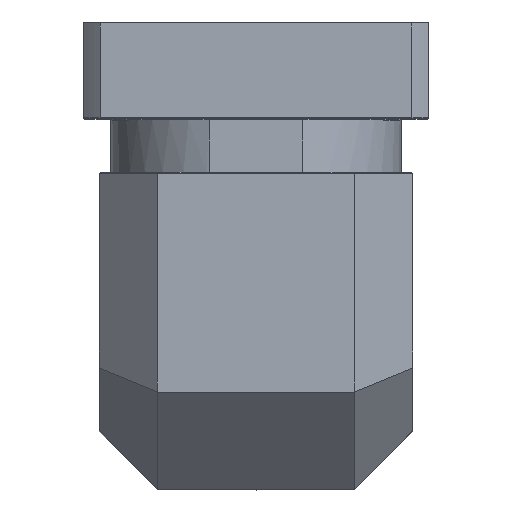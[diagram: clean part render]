
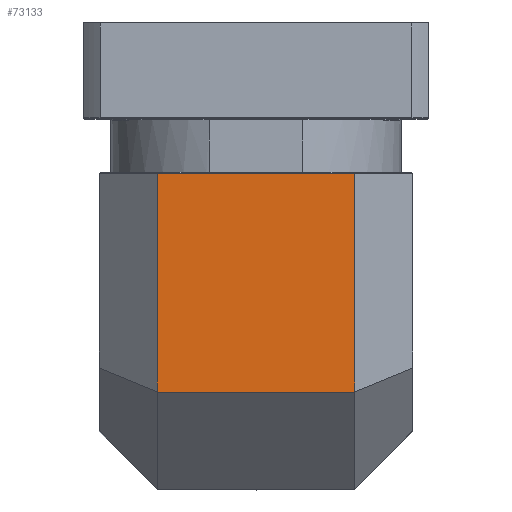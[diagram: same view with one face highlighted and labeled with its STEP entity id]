
A CAD part, top view. The second image highlights one B-rep face of the part: STEP entity #73133.
In plain terms, the highlighted planar face has unit normal (0, 0, 1).
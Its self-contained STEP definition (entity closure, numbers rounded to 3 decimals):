
#3446 = VECTOR ( 'NONE', #118623, 1000. ) ;
#3939 = LINE ( 'NONE', #103076, #29959 ) ;
#7686 = CARTESIAN_POINT ( 'NONE',  ( -59.705, 139.721, 85.895 ) ) ;
#16656 = CARTESIAN_POINT ( 'NONE',  ( -161.705, 58.471, 85.895 ) ) ;
#17609 = VERTEX_POINT ( 'NONE', #113529 ) ;
#18838 = EDGE_LOOP ( 'NONE', ( #55799, #98994, #113843, #51444 ) ) ;
#29959 = VECTOR ( 'NONE', #113956, 1000. ) ;
#33582 = EDGE_CURVE ( 'NONE', #113001, #89200, #3939, .T. ) ;
#34002 = EDGE_CURVE ( 'NONE', #89200, #113551, #83646, .T. ) ;
#49119 = FACE_OUTER_BOUND ( 'NONE', #18838, .T. ) ;
#50163 = DIRECTION ( 'NONE',  ( -1., 0., 0. ) ) ;
#51444 = ORIENTED_EDGE ( 'NONE', *, *, #34002, .F. ) ;
#55799 = ORIENTED_EDGE ( 'NONE', *, *, #33582, .F. ) ;
#61842 = AXIS2_PLACEMENT_3D ( 'NONE', #88510, #74513, #135423 ) ;
#69633 = EDGE_CURVE ( 'NONE', #113551, #17609, #147637, .T. ) ;
#73133 = ADVANCED_FACE ( 'NONE', ( #49119 ), #146473, .F. ) ;
#74513 = DIRECTION ( 'NONE',  ( 0., 0., -1. ) ) ;
#83646 = LINE ( 'NONE', #153673, #3446 ) ;
#88510 = CARTESIAN_POINT ( 'NONE',  ( -191.705, 140.221, 85.895 ) ) ;
#89200 = VERTEX_POINT ( 'NONE', #138125 ) ;
#98994 = ORIENTED_EDGE ( 'NONE', *, *, #131006, .T. ) ;
#103076 = CARTESIAN_POINT ( 'NONE',  ( -59.705, 140.221, 85.895 ) ) ;
#112064 = DIRECTION ( 'NONE',  ( 0., 1., 0. ) ) ;
#113001 = VERTEX_POINT ( 'NONE', #7686 ) ;
#113529 = CARTESIAN_POINT ( 'NONE',  ( -161.705, 139.721, 85.895 ) ) ;
#113551 = VERTEX_POINT ( 'NONE', #138359 ) ;
#113843 = ORIENTED_EDGE ( 'NONE', *, *, #69633, .F. ) ;
#113956 = DIRECTION ( 'NONE',  ( 0., -1., 0. ) ) ;
#114441 = VECTOR ( 'NONE', #50163, 1000. ) ;
#118623 = DIRECTION ( 'NONE',  ( -1., 0., 0. ) ) ;
#131006 = EDGE_CURVE ( 'NONE', #113001, #17609, #150034, .T. ) ;
#135423 = DIRECTION ( 'NONE',  ( 1., 0., 0. ) ) ;
#138125 = CARTESIAN_POINT ( 'NONE',  ( -59.705, 26.721, 85.895 ) ) ;
#138359 = CARTESIAN_POINT ( 'NONE',  ( -161.705, 26.721, 85.895 ) ) ;
#142428 = CARTESIAN_POINT ( 'NONE',  ( -191.705, 139.721, 85.895 ) ) ;
#146473 = PLANE ( 'NONE',  #61842 ) ;
#147637 = LINE ( 'NONE', #16656, #149575 ) ;
#149575 = VECTOR ( 'NONE', #112064, 1000. ) ;
#150034 = LINE ( 'NONE', #142428, #114441 ) ;
#153673 = CARTESIAN_POINT ( 'NONE',  ( -191.705, 26.721, 85.895 ) ) ;
